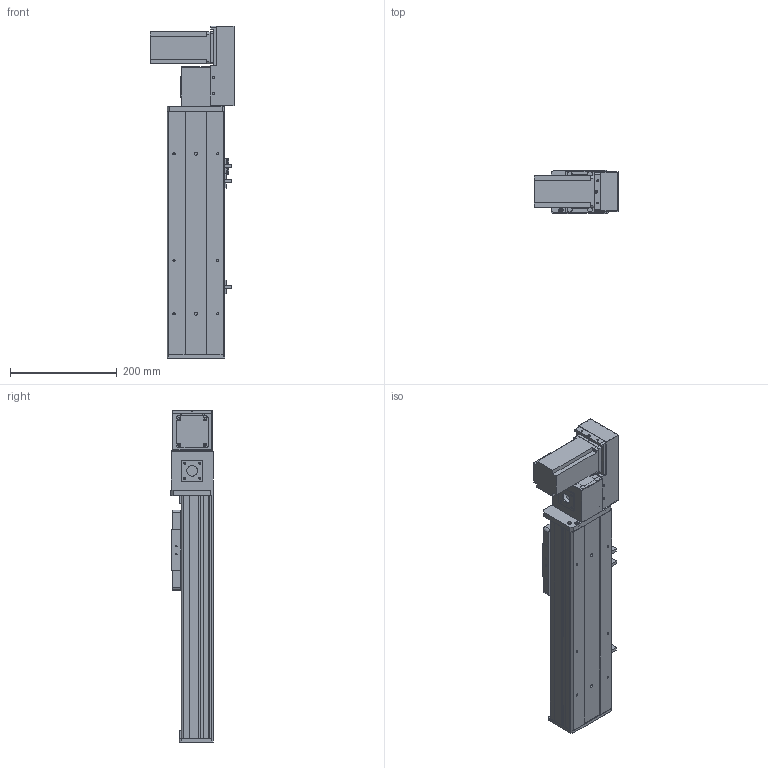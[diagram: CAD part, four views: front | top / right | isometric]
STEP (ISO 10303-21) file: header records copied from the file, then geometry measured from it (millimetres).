
FILE_DESCRIPTION (( 'STEP AP203' ), '1' );
FILE_NAME ('Y10CB-D90-S200-BR-P400W.STEP', '2020-02-16T01:31:25', ( '微软用户' ), ( '微软中国' ), 'SwSTEP 2.0', 'SolidWorks 2017', '' );
FILE_SCHEMA (( 'CONFIG_CONTROL_DESIGN' ));
Length unit declared in the file: millimetre
Products named in the file (18): Y10CB- 掛极耜裔啣-毀---; Y10B-々湍喘謫眊楊擘啣--; Y10C---詩湍揤啣; Y10B-耜蚾蟀諉啣----; 10CB9-掛极; 0B-萇儂楊擘啣; 10CB-耜裔; san松下电机400不带刹车----; Y135C-陔俋离換覜結え-; 0B-源倛裔啣; Y100-135俋离換覜ん--; 0B-埴倛裔啣; Y10B--々湍喘謫眊--666; Y俋欶BR----; 0CB-雄赽釱---; Y10CB-D90-S200-BR-P400W; 10CB-詩湍-; 0Cb-俋欶---
Assembly tree (21 placements, depth 2):
  Y10CB-D90-S200-BR-P400W
    0CB-雄赽釱---
    0Cb-俋欶---
    Y10B-々湍喘謫眊楊擘啣--
    Y10B-耜蚾蟀諉啣----
    0B-萇儂楊擘啣
    san松下电机400不带刹车----
    0B-源倛裔啣
    0B-埴倛裔啣
    Y俋欶BR----
    10CB-詩湍-
    Y10CB- 掛极耜裔啣-毀---  x2
    Y10C---詩湍揤啣  x2
    10CB9-掛极
    10CB-耜裔
    Y135C-陔俋离換覜結え-
    Y100-135俋离換覜ん--  x3
    Y10B--々湍喘謫眊--666
Bounding box: 157.5 x 80.5 x 622.5 mm (x, y, z)
Volume: 1740740.3 mm3; surface area: 708373.1 mm2
Topology: 21 solids, 21 shells, 942 faces, 2483 edges, 1634 vertices
Faces by surface type: plane 471, cylinder 447, cone 24
Entity records: 28904 total; most frequent: CARTESIAN_POINT 4877, DIRECTION 4722, ORIENTED_EDGE 4436, EDGE_CURVE 2218, AXIS2_PLACEMENT_3D 1689, VERTEX_POINT 1460, LINE 1344, VECTOR 1344
